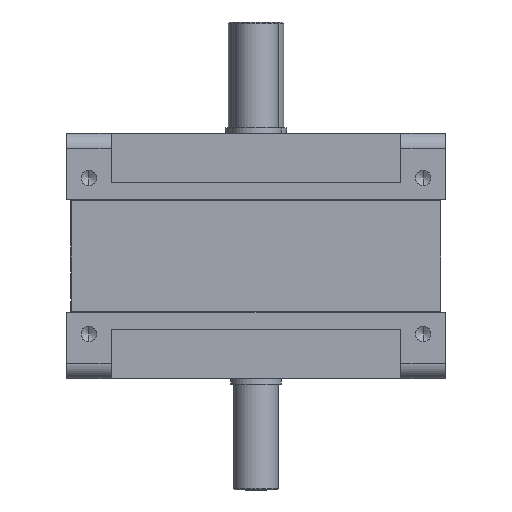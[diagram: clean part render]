
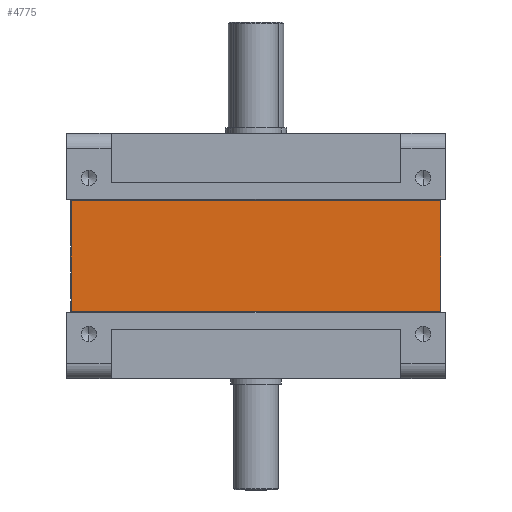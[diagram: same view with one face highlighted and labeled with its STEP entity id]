
A CAD part, front view. The second image highlights one B-rep face of the part: STEP entity #4775.
In plain terms, the highlighted planar face has unit normal (0, -1, 0).
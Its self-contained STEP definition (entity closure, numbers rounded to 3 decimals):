
#3717 = AXIS2_PLACEMENT_3D ( 'NONE', #25296, #24891, #24827 ) ;
#4775 = ADVANCED_FACE ( 'NONE', ( #46868 ), #24958, .T. ) ;
#6030 = LINE ( 'NONE', #27294, #48645 ) ;
#6276 = VECTOR ( 'NONE', #17012, 1000. ) ;
#6487 = ORIENTED_EDGE ( 'NONE', *, *, #37988, .T. ) ;
#11223 = EDGE_CURVE ( 'NONE', #30207, #30749, #30674, .T. ) ;
#11655 = VERTEX_POINT ( 'NONE', #34298 ) ;
#12093 = EDGE_CURVE ( 'NONE', #30207, #11655, #52842, .T. ) ;
#15837 = CARTESIAN_POINT ( 'NONE',  ( -165.776, -340.776, -49.667 ) ) ;
#15892 = DIRECTION ( 'NONE',  ( 1., 0., 0. ) ) ;
#17012 = DIRECTION ( 'NONE',  ( 0., 0., -1. ) ) ;
#18925 = ORIENTED_EDGE ( 'NONE', *, *, #29286, .F. ) ;
#21785 = VERTEX_POINT ( 'NONE', #49799 ) ;
#24827 = DIRECTION ( 'NONE',  ( 0., 0., -1. ) ) ;
#24891 = DIRECTION ( 'NONE',  ( 0., -1., 0. ) ) ;
#24958 = PLANE ( 'NONE',  #3717 ) ;
#25296 = CARTESIAN_POINT ( 'NONE',  ( -165.776, -340.776, -51. ) ) ;
#27294 = CARTESIAN_POINT ( 'NONE',  ( 170., -340.776, 49.667 ) ) ;
#28889 = ORIENTED_EDGE ( 'NONE', *, *, #11223, .F. ) ;
#29286 = EDGE_CURVE ( 'NONE', #21785, #11655, #48883, .T. ) ;
#30207 = VERTEX_POINT ( 'NONE', #35289 ) ;
#30674 = LINE ( 'NONE', #48198, #30730 ) ;
#30730 = VECTOR ( 'NONE', #47746, 1000. ) ;
#30749 = VERTEX_POINT ( 'NONE', #47445 ) ;
#34298 = CARTESIAN_POINT ( 'NONE',  ( 165.776, -340.776, -49.667 ) ) ;
#35289 = CARTESIAN_POINT ( 'NONE',  ( -165.776, -340.776, -49.667 ) ) ;
#37988 = EDGE_CURVE ( 'NONE', #21785, #30749, #6030, .T. ) ;
#45884 = CARTESIAN_POINT ( 'NONE',  ( 165.776, -340.776, -51. ) ) ;
#46868 = FACE_OUTER_BOUND ( 'NONE', #53373, .T. ) ;
#47445 = CARTESIAN_POINT ( 'NONE',  ( -165.776, -340.776, 49.667 ) ) ;
#47746 = DIRECTION ( 'NONE',  ( 0., 0., 1. ) ) ;
#48198 = CARTESIAN_POINT ( 'NONE',  ( -165.776, -340.776, -51. ) ) ;
#48645 = VECTOR ( 'NONE', #52099, 1000. ) ;
#48883 = LINE ( 'NONE', #45884, #6276 ) ;
#49799 = CARTESIAN_POINT ( 'NONE',  ( 165.776, -340.776, 49.667 ) ) ;
#49922 = ORIENTED_EDGE ( 'NONE', *, *, #12093, .T. ) ;
#52099 = DIRECTION ( 'NONE',  ( -1., 0., 0. ) ) ;
#52842 = LINE ( 'NONE', #15837, #53221 ) ;
#53221 = VECTOR ( 'NONE', #15892, 1000. ) ;
#53373 = EDGE_LOOP ( 'NONE', ( #18925, #6487, #28889, #49922 ) ) ;
